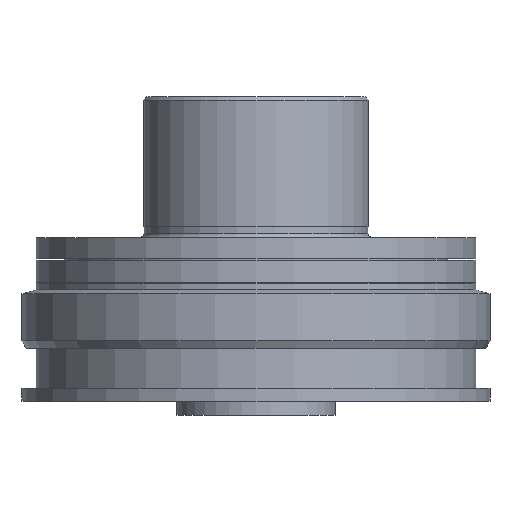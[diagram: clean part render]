
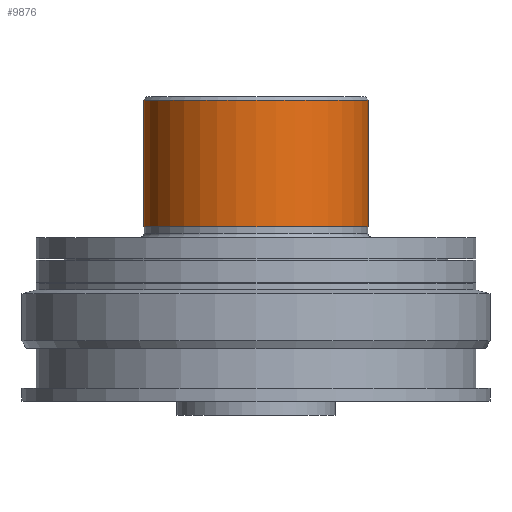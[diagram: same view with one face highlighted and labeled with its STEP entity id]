
A CAD part, front view. The second image highlights one B-rep face of the part: STEP entity #9876.
In plain terms, the highlighted cylindrical face has radius 32 mm (diameter 64 mm), a partial arc.
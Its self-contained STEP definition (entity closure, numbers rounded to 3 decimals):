
#992 = CARTESIAN_POINT ( 'NONE',  ( -32., 0., -138.044 ) ) ;
#1020 = DIRECTION ( 'NONE',  ( 0., 0., 1. ) ) ;
#1021 = DIRECTION ( 'NONE',  ( 0., 0., 1. ) ) ;
#1042 = CARTESIAN_POINT ( 'NONE',  ( 32., 0., -138.044 ) ) ;
#2189 = EDGE_CURVE ( 'NONE', #8233, #8230, #4554, .T. ) ;
#2194 = EDGE_CURVE ( 'NONE', #8238, #8231, #4533, .T. ) ;
#2427 = ORIENTED_EDGE ( 'NONE', *, *, #9321, .T. ) ;
#2535 = ORIENTED_EDGE ( 'NONE', *, *, #9347, .F. ) ;
#2537 = ORIENTED_EDGE ( 'NONE', *, *, #2189, .T. ) ;
#2563 = EDGE_LOOP ( 'NONE', ( #2574, #2535, #2537, #2427 ) ) ;
#2574 = ORIENTED_EDGE ( 'NONE', *, *, #2194, .F. ) ;
#4110 = AXIS2_PLACEMENT_3D ( 'NONE', #6574, #6575, #6583 ) ;
#4530 = VECTOR ( 'NONE', #1020, 1000. ) ;
#4533 = LINE ( 'NONE', #992, #4530 ) ;
#4544 = VECTOR ( 'NONE', #1021, 1000. ) ;
#4554 = LINE ( 'NONE', #1042, #4544 ) ;
#4753 = CARTESIAN_POINT ( 'NONE',  ( -32., 0., 49.5 ) ) ;
#4759 = CARTESIAN_POINT ( 'NONE',  ( 32., 0., 49.5 ) ) ;
#4761 = CARTESIAN_POINT ( 'NONE',  ( -32., 0., 85.5 ) ) ;
#4762 = CARTESIAN_POINT ( 'NONE',  ( 32., 0., 85.5 ) ) ;
#5089 = FACE_OUTER_BOUND ( 'NONE', #2563, .T. ) ;
#5097 = CYLINDRICAL_SURFACE ( 'NONE', #4110, 32. ) ;
#6574 = CARTESIAN_POINT ( 'NONE',  ( 0., 0., -138.044 ) ) ;
#6575 = DIRECTION ( 'NONE',  ( 0., 0., 1. ) ) ;
#6583 = DIRECTION ( 'NONE',  ( 1., 0., 0. ) ) ;
#7039 = CARTESIAN_POINT ( 'NONE',  ( 0., 0., 85.5 ) ) ;
#7040 = DIRECTION ( 'NONE',  ( 0., 0., -1. ) ) ;
#7041 = DIRECTION ( 'NONE',  ( 1., 0., 0. ) ) ;
#7115 = CARTESIAN_POINT ( 'NONE',  ( 0., 0., 49.5 ) ) ;
#7116 = DIRECTION ( 'NONE',  ( 0., 0., -1. ) ) ;
#7117 = DIRECTION ( 'NONE',  ( 1., 0., 0. ) ) ;
#8230 = VERTEX_POINT ( 'NONE', #4762 ) ;
#8231 = VERTEX_POINT ( 'NONE', #4761 ) ;
#8233 = VERTEX_POINT ( 'NONE', #4759 ) ;
#8238 = VERTEX_POINT ( 'NONE', #4753 ) ;
#8670 = AXIS2_PLACEMENT_3D ( 'NONE', #7115, #7116, #7117 ) ;
#8696 = AXIS2_PLACEMENT_3D ( 'NONE', #7039, #7040, #7041 ) ;
#9044 = CIRCLE ( 'NONE', #8696, 32. ) ;
#9104 = CIRCLE ( 'NONE', #8670, 32. ) ;
#9321 = EDGE_CURVE ( 'NONE', #8230, #8231, #9044, .T. ) ;
#9347 = EDGE_CURVE ( 'NONE', #8233, #8238, #9104, .T. ) ;
#9876 = ADVANCED_FACE ( 'NONE', ( #5089 ), #5097, .T. ) ;
